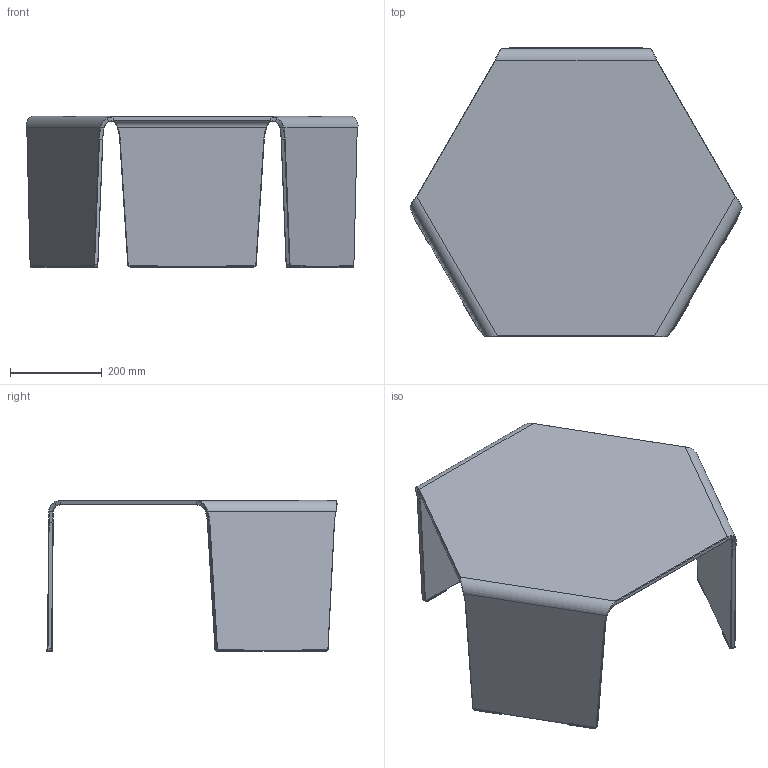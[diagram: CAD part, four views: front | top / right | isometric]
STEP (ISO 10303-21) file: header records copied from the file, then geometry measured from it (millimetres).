
FILE_DESCRIPTION((''),'2;1');
FILE_NAME('C:\AutodeskVault\AreaLavoro\Progetti\SoVeT Italia\2. Tavolini_Coffee tables\3Feet\Web file\3Feet Web\P4680.stp','2012-06-12T17:12:22',('Gianluca'),('So.Ve.T. s.r.l.'),'Autodesk Inventor 2013','Autodesk Inventor 2013','IL PROGETTO E'' DI ESCLUSIVA PROPRIETA'' DELLA SO.VE.T. srl. E'' VIETATA OGNI RIPRODUZIONE TOTALE O PARZIALE E QUALSIASI UTILIZZO NON AUTORIZZATO. ');
FILE_SCHEMA(('AUTOMOTIVE_DESIGN { 1 0 10303 214 1 1 1 1 }'));
Length unit declared in the file: millimetre
Products named in the file (1): P4680 Contorno semplificato
Bounding box: 724.71 x 633.24 x 329.97 mm (x, y, z)
Volume: 6200556.8 mm3; surface area: 1280564.5 mm2
Topology: 1 solids, 1 shells, 260 faces, 684 edges, 414 vertices
Faces by surface type: plane 110, cylinder 66, bspline 60, cone 24
Entity records: 16447 total; most frequent: CARTESIAN_POINT 10095, ORIENTED_EDGE 1368, DIRECTION 1098, EDGE_CURVE 684, VERTEX_POINT 414, VECTOR 408, LINE 408, AXIS2_PLACEMENT_3D 345
